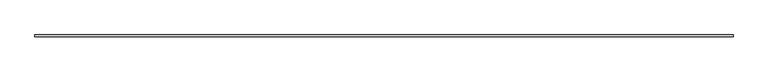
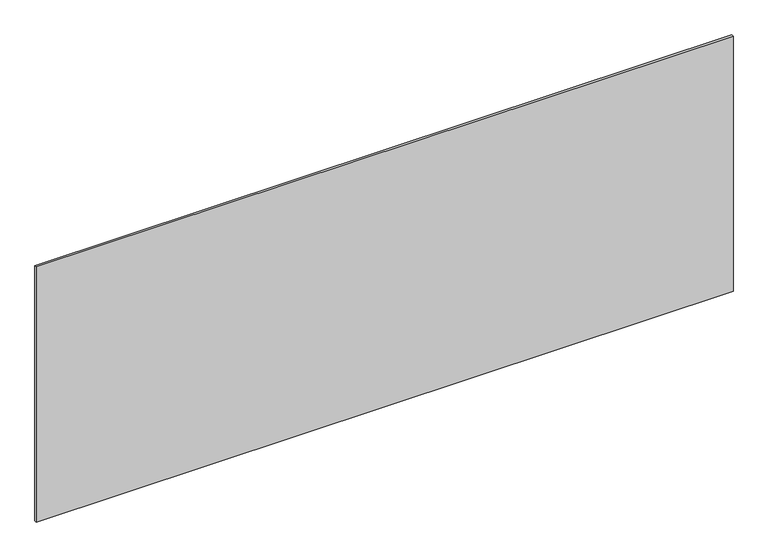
"""IFC4 building model written with IfcOpenShell, lengths in millimetres: plate geometry, システム パネル : 標準."""

from ifc_helpers import new_model, si_unit, origin, origin_with_axes, place, context, project, spatial, polyline, outline, extrude, source, transform, mapped, element, save


def plate_149d2ef8(model_context):
    return source(origin(), model_context, "Body", "SweptSolid", [
        extrude(outline(polyline([(1715.0, -5.0), (-1715.0, -5.0), (-1715.0, 5.0), (1715.0, 5.0), (1715.0, -5.0)])), origin_with_axes(), (0.0, 0.0, 1.0), 1327.5187473),
    ])


if __name__ == "__main__":
    model = new_model("IFC4")
    model_context = context("Model", 3, world=origin())
    ifc_project = project(units=[si_unit("LENGTHUNIT", "METRE", prefix="MILLI")], contexts=[model_context])
    site = spatial("IfcSite", under=ifc_project)
    building = spatial("IfcBuilding", under=site)
    placement = place(None, origin())
    plate_shape = plate_149d2ef8(model_context)
    element("IfcPlate", 1, ObjectType="システム パネル : 標準", at=placement, inside=building, context=model_context, shape_type="MappedRepresentation", body=[
        mapped(plate_shape, transform((0.0, 0.0, 0.0), x_axis=(1.0, 0.0, 0.0), y_axis=(0.0, 1.0, 0.0), z_axis=(0.0, 0.0, 1.0))),
    ])
    save(model, "model.ifc")
